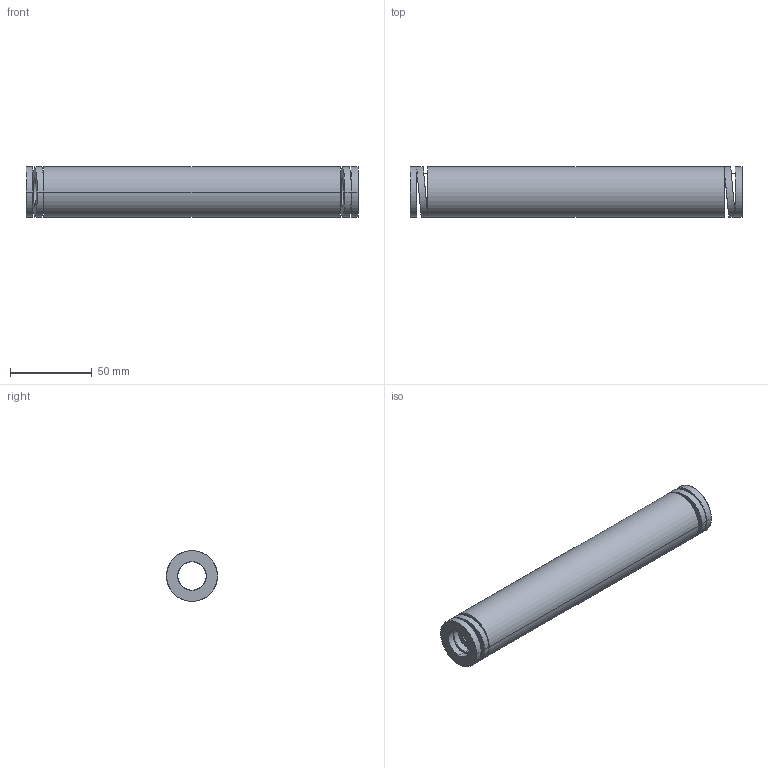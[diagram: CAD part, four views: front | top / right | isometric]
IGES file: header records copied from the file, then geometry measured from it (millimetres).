
Start section: START RECORD GO HERE.
Global section: file name: 392-B32-203.igs; native system: DASSAULT SYSTEMES CATIA V5 R20 - www.3ds.com; preprocessor: CATIA Version 5 Release 20 ; author: Utente; organization: NB04-ASUS; date: 20210813.104917; units: millimetre
Bounding box: 203 x 31.24 x 31 mm (x, y, z)
Surface area: 35136.4 mm2 (no closed solid volume)
Topology: 0 solids, 0 shells, 38 faces, 184 edges, 184 vertices
Faces by surface type: revolution 28, plane 10
